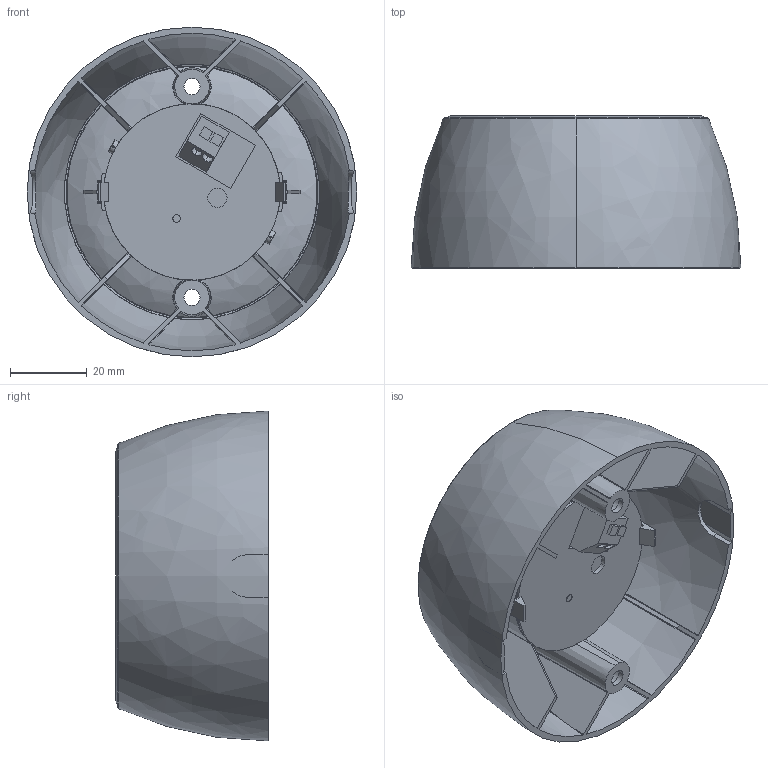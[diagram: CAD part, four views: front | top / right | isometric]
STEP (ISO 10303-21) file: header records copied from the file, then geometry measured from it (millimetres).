
FILE_DESCRIPTION((''),'2;1');
FILE_NAME('15013197Z','2019-04-24T11:30:21',('muell'),(''),'CREO PARAMETRIC BY PTC INC, 2017380','CREO PARAMETRIC BY PTC INC, 2017380','');
FILE_SCHEMA(('AUTOMOTIVE_DESIGN { 1 0 10303 214 1 1 1 1 }'));
Length unit declared in the file: millimetre
Products named in the file (1): 15013197Z
Bounding box: 86 x 39.65 x 86 mm (x, y, z)
Volume: 59185.8 mm3; surface area: 47858.8 mm2
Topology: 1 solids, 4 shells, 444 faces, 1186 edges, 751 vertices
Faces by surface type: plane 188, cylinder 72, bspline 66, torus 42, cone 38, sphere 38
Entity records: 23066 total; most frequent: CARTESIAN_POINT 5761, ORIENTED_EDGE 2356, DIRECTION 1891, PRESENTATION_STYLE_ASSIGNMENT 1614, STYLED_ITEM 1179, CURVE_STYLE 1178, EDGE_CURVE 1178, VERTEX_POINT 751
